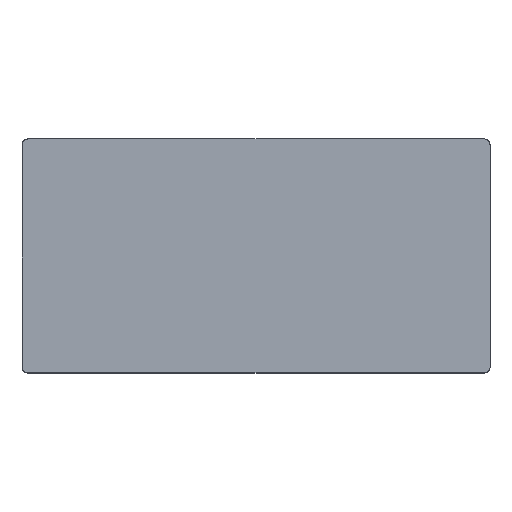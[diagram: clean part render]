
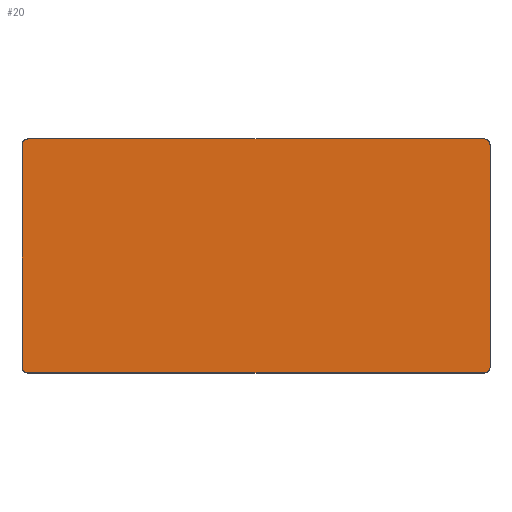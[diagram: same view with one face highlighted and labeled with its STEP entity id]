
A CAD part, top view. The second image highlights one B-rep face of the part: STEP entity #20.
In plain terms, the highlighted planar face has unit normal (0, 0, 1).
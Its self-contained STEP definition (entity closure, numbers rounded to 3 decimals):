
#20=ADVANCED_FACE($,(#44),#298,.T.);
#44=FACE_OUTER_BOUND($,#68,.T.);
#68=EDGE_LOOP($,(#102,#103,#104,#105,#106,#107,#108,#109));
#102=ORIENTED_EDGE($,*,*,#213,.F.);
#103=ORIENTED_EDGE($,*,*,#204,.F.);
#104=ORIENTED_EDGE($,*,*,#212,.F.);
#105=ORIENTED_EDGE($,*,*,#203,.F.);
#106=ORIENTED_EDGE($,*,*,#211,.F.);
#107=ORIENTED_EDGE($,*,*,#202,.F.);
#108=ORIENTED_EDGE($,*,*,#210,.F.);
#109=ORIENTED_EDGE($,*,*,#205,.F.);
#202=EDGE_CURVE($,#261,#260,#340,.T.);
#203=EDGE_CURVE($,#263,#262,#341,.T.);
#204=EDGE_CURVE($,#265,#264,#342,.T.);
#205=EDGE_CURVE($,#267,#266,#343,.T.);
#210=EDGE_CURVE($,#266,#261,#316,.T.);
#211=EDGE_CURVE($,#260,#263,#317,.T.);
#212=EDGE_CURVE($,#262,#265,#318,.T.);
#213=EDGE_CURVE($,#264,#267,#319,.T.);
#260=VERTEX_POINT($,#626);
#261=VERTEX_POINT($,#627);
#262=VERTEX_POINT($,#628);
#263=VERTEX_POINT($,#629);
#264=VERTEX_POINT($,#630);
#265=VERTEX_POINT($,#631);
#266=VERTEX_POINT($,#632);
#267=VERTEX_POINT($,#633);
#298=PLANE($,#456);
#316=(
BOUNDED_CURVE()
B_SPLINE_CURVE(2,(#520,#521,#522),.UNSPECIFIED.,.F.,.F.)
B_SPLINE_CURVE_WITH_KNOTS((3,3),(-1.,0.),.UNSPECIFIED.)
CURVE()
GEOMETRIC_REPRESENTATION_ITEM()
RATIONAL_B_SPLINE_CURVE((1.,0.707,1.))
REPRESENTATION_ITEM($)
);
#317=(
BOUNDED_CURVE()
B_SPLINE_CURVE(2,(#523,#524,#525),.UNSPECIFIED.,.F.,.F.)
B_SPLINE_CURVE_WITH_KNOTS((3,3),(0.,1.),.UNSPECIFIED.)
CURVE()
GEOMETRIC_REPRESENTATION_ITEM()
RATIONAL_B_SPLINE_CURVE((1.,0.707,1.))
REPRESENTATION_ITEM($)
);
#318=(
BOUNDED_CURVE()
B_SPLINE_CURVE(2,(#526,#527,#528),.UNSPECIFIED.,.F.,.F.)
B_SPLINE_CURVE_WITH_KNOTS((3,3),(0.,1.),.UNSPECIFIED.)
CURVE()
GEOMETRIC_REPRESENTATION_ITEM()
RATIONAL_B_SPLINE_CURVE((1.,0.707,1.))
REPRESENTATION_ITEM($)
);
#319=(
BOUNDED_CURVE()
B_SPLINE_CURVE(2,(#529,#530,#531),.UNSPECIFIED.,.F.,.F.)
B_SPLINE_CURVE_WITH_KNOTS((3,3),(0.,1.),.UNSPECIFIED.)
CURVE()
GEOMETRIC_REPRESENTATION_ITEM()
RATIONAL_B_SPLINE_CURVE((1.,0.707,1.))
REPRESENTATION_ITEM($)
);
#340=B_SPLINE_CURVE_WITH_KNOTS($,1,(#500,#501),.UNSPECIFIED.,.F.,.F.,(2,
2),(27.,1073.),.UNSPECIFIED.);
#341=B_SPLINE_CURVE_WITH_KNOTS($,1,(#502,#503),.UNSPECIFIED.,.F.,.F.,(2,
2),(27.,2173.),.UNSPECIFIED.);
#342=B_SPLINE_CURVE_WITH_KNOTS($,1,(#504,#505),.UNSPECIFIED.,.F.,.F.,(2,
2),(27.,1073.),.UNSPECIFIED.);
#343=B_SPLINE_CURVE_WITH_KNOTS($,1,(#506,#507),.UNSPECIFIED.,.F.,.F.,(2,
2),(27.,2173.),.UNSPECIFIED.);
#456=AXIS2_PLACEMENT_3D($,#566,#475,$);
#475=DIRECTION($,(0.,0.,1.));
#500=CARTESIAN_POINT($,(-1746.881,-3107.705,15.));
#501=CARTESIAN_POINT($,(-1746.881,-2061.705,15.));
#502=CARTESIAN_POINT($,(-1719.881,-2034.705,15.));
#503=CARTESIAN_POINT($,(426.119,-2034.705,15.));
#504=CARTESIAN_POINT($,(453.119,-2061.705,15.));
#505=CARTESIAN_POINT($,(453.119,-3107.705,15.));
#506=CARTESIAN_POINT($,(426.119,-3134.705,15.));
#507=CARTESIAN_POINT($,(-1719.881,-3134.705,15.));
#520=CARTESIAN_POINT($,(-1719.881,-3134.705,15.));
#521=CARTESIAN_POINT($,(-1746.881,-3134.705,15.));
#522=CARTESIAN_POINT($,(-1746.881,-3107.705,15.));
#523=CARTESIAN_POINT($,(-1746.881,-2061.705,15.));
#524=CARTESIAN_POINT($,(-1746.881,-2034.705,15.));
#525=CARTESIAN_POINT($,(-1719.881,-2034.705,15.));
#526=CARTESIAN_POINT($,(426.119,-2034.705,15.));
#527=CARTESIAN_POINT($,(453.119,-2034.705,15.));
#528=CARTESIAN_POINT($,(453.119,-2061.705,15.));
#529=CARTESIAN_POINT($,(453.119,-3107.705,15.));
#530=CARTESIAN_POINT($,(453.119,-3134.705,15.));
#531=CARTESIAN_POINT($,(426.119,-3134.705,15.));
#566=CARTESIAN_POINT($,(-1746.881,-3134.705,15.));
#626=CARTESIAN_POINT($,(-1746.881,-2061.705,15.));
#627=CARTESIAN_POINT($,(-1746.881,-3107.705,15.));
#628=CARTESIAN_POINT($,(426.119,-2034.705,15.));
#629=CARTESIAN_POINT($,(-1719.881,-2034.705,15.));
#630=CARTESIAN_POINT($,(453.119,-3107.705,15.));
#631=CARTESIAN_POINT($,(453.119,-2061.705,15.));
#632=CARTESIAN_POINT($,(-1719.881,-3134.705,15.));
#633=CARTESIAN_POINT($,(426.119,-3134.705,15.));
